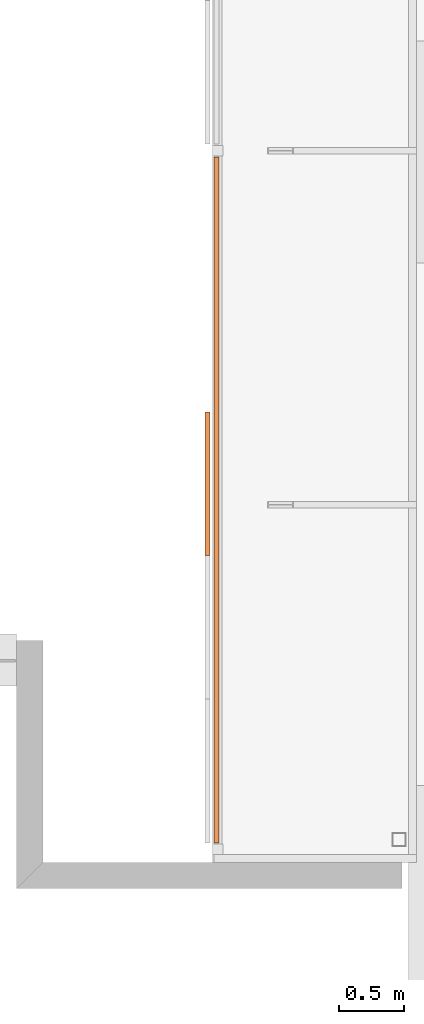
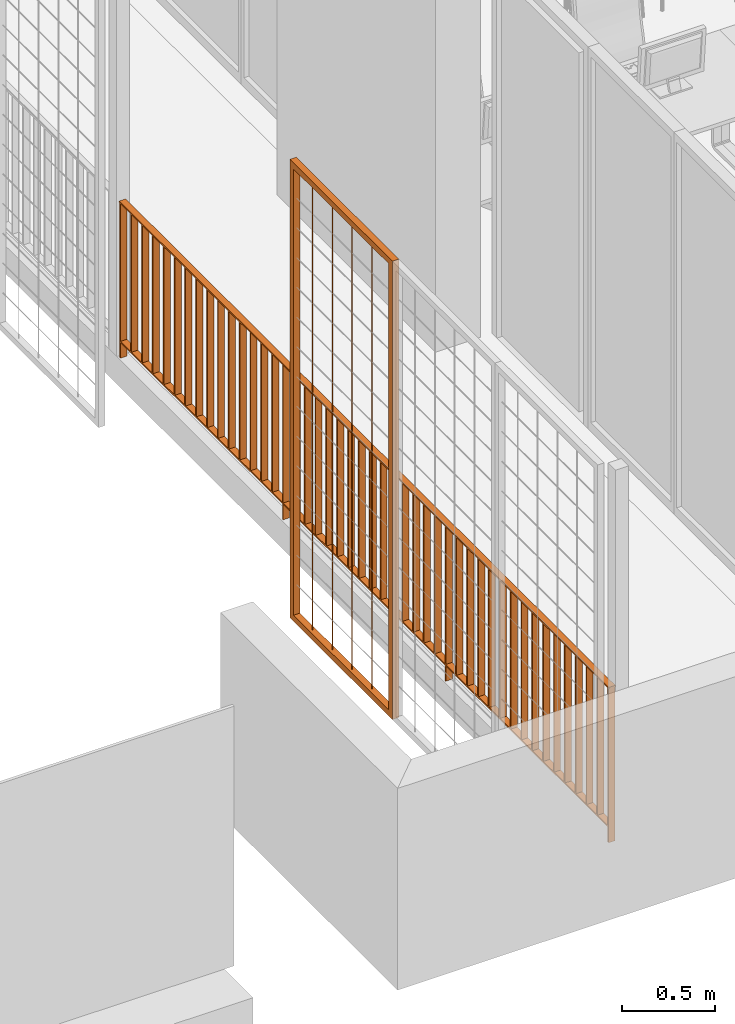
# One storey, part 39 of 51: 2 proxies.
"""IFC2X3 building model written with IfcOpenShell, lengths in metres."""

from ifc_helpers import new_model, entity, si_unit, converted_unit, derived_unit, direction, frame, frame_2d, origin, origin_2d_with_axis, place, context, subcontext, project, spatial, polyline, rectangle, outline, extrude, source, transform, mapped, material, type_object, type_shapes, element, save


model = new_model("IFC2X3")

# Units and contexts
model_context = context("Model", 3, precision=1e-05, world=origin(), true_north=direction((6.123031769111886e-17, 1.0)))
body_context = subcontext(model_context, "Body", "Model", "MODEL_VIEW")
ifc_project = project(units=[si_unit("LENGTHUNIT", "METRE"), si_unit("AREAUNIT", "SQUARE_METRE"), si_unit("VOLUMEUNIT", "CUBIC_METRE"), converted_unit("PLANEANGLEUNIT", "DEGREE", entity("IfcRatioMeasure", 0.017453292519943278), si_unit("PLANEANGLEUNIT", "RADIAN"), dimensions=[0, 0, 0, 0, 0, 0, 0]), si_unit("MASSUNIT", "GRAM", prefix="KILO"), derived_unit("MASSDENSITYUNIT", [(si_unit("MASSUNIT", "GRAM", prefix="KILO"), 1), (si_unit("LENGTHUNIT", "METRE"), -3)]), derived_unit("MOMENTOFINERTIAUNIT", [(si_unit("LENGTHUNIT", "METRE"), 4)]), si_unit("TIMEUNIT", "SECOND"), si_unit("FREQUENCYUNIT", "HERTZ"), si_unit("THERMODYNAMICTEMPERATUREUNIT", "DEGREE_CELSIUS"), derived_unit("THERMALTRANSMITTANCEUNIT", [(si_unit("MASSUNIT", "GRAM", prefix="KILO"), 1), (si_unit("THERMODYNAMICTEMPERATUREUNIT", "KELVIN"), -1), (si_unit("TIMEUNIT", "SECOND"), -3)]), derived_unit("THERMALCONDUCTANCEUNIT", [(si_unit("MASSUNIT", "GRAM", prefix="KILO"), 1), (si_unit("LENGTHUNIT", "METRE"), 1), (si_unit("THERMODYNAMICTEMPERATUREUNIT", "KELVIN"), -1), (si_unit("TIMEUNIT", "SECOND"), -3)]), derived_unit("VOLUMETRICFLOWRATEUNIT", [(si_unit("LENGTHUNIT", "METRE"), 3), (si_unit("TIMEUNIT", "SECOND"), -1)]), derived_unit("MASSFLOWRATEUNIT", [(si_unit("MASSUNIT", "GRAM", prefix="KILO"), 1), (si_unit("TIMEUNIT", "SECOND"), -1)]), derived_unit("ROTATIONALFREQUENCYUNIT", [(si_unit("TIMEUNIT", "SECOND"), -1)]), si_unit("ELECTRICCURRENTUNIT", "AMPERE"), si_unit("ELECTRICVOLTAGEUNIT", "VOLT"), si_unit("POWERUNIT", "WATT"), si_unit("FORCEUNIT", "NEWTON", prefix="KILO"), si_unit("ILLUMINANCEUNIT", "LUX"), si_unit("LUMINOUSFLUXUNIT", "LUMEN"), si_unit("LUMINOUSINTENSITYUNIT", "CANDELA"), derived_unit("USERDEFINED", [(si_unit("MASSUNIT", "GRAM", prefix="KILO"), -1), (si_unit("LENGTHUNIT", "METRE"), -2), (si_unit("TIMEUNIT", "SECOND"), 3), (si_unit("LUMINOUSFLUXUNIT", "LUMEN"), 1)]), derived_unit("USERDEFINED", [(si_unit("MASSUNIT", "GRAM", prefix="KILO"), 1), (si_unit("LENGTHUNIT", "METRE"), 3), (si_unit("TIMEUNIT", "SECOND"), -3), (si_unit("ELECTRICCURRENTUNIT", "AMPERE"), -2)]), derived_unit("USERDEFINED", [(si_unit("LENGTHUNIT", "METRE"), 2), (si_unit("TIMEUNIT", "SECOND"), -2)]), derived_unit("SOUNDPOWERUNIT", [(si_unit("MASSUNIT", "GRAM", prefix="KILO"), 1), (si_unit("LENGTHUNIT", "METRE"), 2), (si_unit("TIMEUNIT", "SECOND"), -3)]), derived_unit("SOUNDPRESSUREUNIT", [(si_unit("MASSUNIT", "GRAM", prefix="KILO"), 1), (si_unit("LENGTHUNIT", "METRE"), -1), (si_unit("TIMEUNIT", "SECOND"), -2)]), derived_unit("LINEARVELOCITYUNIT", [(si_unit("LENGTHUNIT", "METRE"), 1), (si_unit("TIMEUNIT", "SECOND"), -1)]), si_unit("PRESSUREUNIT", "PASCAL"), derived_unit("USERDEFINED", [(si_unit("LENGTHUNIT", "METRE"), -2), (si_unit("MASSUNIT", "GRAM", prefix="KILO"), 1), (si_unit("TIMEUNIT", "SECOND"), -2)]), derived_unit("LINEARFORCEUNIT", [(si_unit("MASSUNIT", "GRAM", prefix="KILO"), 1), (si_unit("LENGTHUNIT", "METRE"), 1), (si_unit("TIMEUNIT", "SECOND"), -2), (si_unit("LENGTHUNIT", "METRE"), -1)]), derived_unit("PLANARFORCEUNIT", [(si_unit("MASSUNIT", "GRAM", prefix="KILO"), 1), (si_unit("LENGTHUNIT", "METRE"), 1), (si_unit("TIMEUNIT", "SECOND"), -2), (si_unit("LENGTHUNIT", "METRE"), -2)]), derived_unit("SPECIFICHEATCAPACITYUNIT", [(si_unit("LENGTHUNIT", "METRE"), 2), (si_unit("TIMEUNIT", "SECOND"), -2), (si_unit("THERMODYNAMICTEMPERATUREUNIT", "KELVIN"), -1)]), derived_unit("VAPORPERMEABILITYUNIT", [(si_unit("TIMEUNIT", "SECOND"), 1), (si_unit("LENGTHUNIT", "METRE"), -1)]), derived_unit("DYNAMICVISCOSITYUNIT", [(si_unit("MASSUNIT", "GRAM", prefix="KILO"), 1), (si_unit("LENGTHUNIT", "METRE"), -1), (si_unit("TIMEUNIT", "SECOND"), -1)]), derived_unit("THERMALEXPANSIONCOEFFICIENTUNIT", [(si_unit("THERMODYNAMICTEMPERATUREUNIT", "KELVIN"), -1)])], contexts=[model_context])

# Site, building, storey
site_placement = place(None, origin())
site = spatial("IfcSite", under=ifc_project, at=site_placement, Name="Default", CompositionType="ELEMENT")
building_placement = place(site_placement, origin())
building = spatial("IfcBuilding", under=site, at=building_placement, CompositionType="ELEMENT")
storey_placement = place(building_placement, frame((0.0, 0.0, 3.06)))
storey = spatial("IfcBuildingStorey", under=building, at=storey_placement, Name="ÉTAGE", CompositionType="ELEMENT", Elevation=3.06)

# Proxies
ifc_material_1 = material(Name="Peinture - Anthracite")
building_element_proxy_type_1 = type_object("IfcBuildingElementProxyType", Name="Symb-0003", PredefinedType="NOTDEFINED", material=ifc_material_1)
shared_shape_1 = source(origin(), body_context, "Body", "SweptSolid", [
    extrude(rectangle(XDim=0.04000000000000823, YDim=0.009999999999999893, at=frame_2d((8.663209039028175e-15, 0.0), x_axis=(1.0, 0.0))), frame((139.93075228, 9.56343175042, 4.38), z_axis=(0.0, 0.0, 1.0), x_axis=(-1.0, 0.0, 0.0)), (0.0, 0.0, 1.0), 0.9),
    extrude(rectangle(XDim=0.04000000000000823, YDim=0.009999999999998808, at=frame_2d((8.663209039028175e-15, -5.41667405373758e-16), x_axis=(1.0, 0.0))), frame((139.93075228, 9.679653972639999, 4.38), z_axis=(0.0, 0.0, 1.0), x_axis=(-1.0, 0.0, 0.0)), (0.0, 0.0, 1.0), 0.9),
    extrude(rectangle(XDim=0.04000000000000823, YDim=0.009999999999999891, at=frame_2d((8.663209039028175e-15, -1.0829011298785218e-15), x_axis=(1.0, 0.0))), frame((139.93075228, 9.795876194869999, 4.38), z_axis=(0.0, 0.0, 1.0), x_axis=(-1.0, 0.0, 0.0)), (0.0, 0.0, 1.0), 0.9),
    extrude(rectangle(XDim=0.04000000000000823, YDim=0.009999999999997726, at=frame_2d((8.663209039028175e-15, 0.0), x_axis=(1.0, 0.0))), frame((139.93075228, 9.91209841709, 4.38), z_axis=(0.0, 0.0, 1.0), x_axis=(-1.0, 0.0, 0.0)), (0.0, 0.0, 1.0), 0.9),
    extrude(rectangle(XDim=0.04000000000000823, YDim=0.009999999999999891, at=frame_2d((8.663209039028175e-15, -1.0829011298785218e-15), x_axis=(1.0, 0.0))), frame((139.93075228, 10.028320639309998, 4.38), z_axis=(0.0, 0.0, 1.0), x_axis=(-1.0, 0.0, 0.0)), (0.0, 0.0, 1.0), 0.9),
    extrude(rectangle(XDim=0.04000000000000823, YDim=0.010000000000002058, at=frame_2d((8.663209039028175e-15, 0.0), x_axis=(1.0, 0.0))), frame((139.93075228, 10.14454286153, 4.38), z_axis=(0.0, 0.0, 1.0), x_axis=(-1.0, 0.0, 0.0)), (0.0, 0.0, 1.0), 0.9),
    extrude(rectangle(XDim=0.04000000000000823, YDim=0.010000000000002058, at=frame_2d((8.663209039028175e-15, 0.0), x_axis=(1.0, 0.0))), frame((139.93075228, 10.26076508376, 4.38), z_axis=(0.0, 0.0, 1.0), x_axis=(-1.0, 0.0, 0.0)), (0.0, 0.0, 1.0), 0.9),
    extrude(rectangle(XDim=0.04000000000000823, YDim=0.009999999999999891, at=frame_2d((8.663209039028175e-15, -1.0829011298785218e-15), x_axis=(1.0, 0.0))), frame((139.93075228, 10.376987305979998, 4.38), z_axis=(0.0, 0.0, 1.0), x_axis=(-1.0, 0.0, 0.0)), (0.0, 0.0, 1.0), 0.9),
    extrude(rectangle(XDim=0.04000000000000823, YDim=0.009999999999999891, at=frame_2d((8.663209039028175e-15, 1.0829011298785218e-15), x_axis=(1.0, 0.0))), frame((139.93075228, 10.493209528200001, 4.38), z_axis=(0.0, 0.0, 1.0), x_axis=(-1.0, 0.0, 0.0)), (0.0, 0.0, 1.0), 0.9),
    extrude(rectangle(XDim=0.04000000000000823, YDim=0.009999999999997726, at=frame_2d((8.663209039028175e-15, 0.0), x_axis=(1.0, 0.0))), frame((139.93075228, 10.609431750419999, 4.38), z_axis=(0.0, 0.0, 1.0), x_axis=(-1.0, 0.0, 0.0)), (0.0, 0.0, 1.0), 0.9),
    extrude(rectangle(XDim=0.04000000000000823, YDim=0.009999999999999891, at=frame_2d((8.663209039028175e-15, -1.0829011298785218e-15), x_axis=(1.0, 0.0))), frame((139.93075228, 10.72565397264, 4.38), z_axis=(0.0, 0.0, 1.0), x_axis=(-1.0, 0.0, 0.0)), (0.0, 0.0, 1.0), 0.9),
    extrude(rectangle(XDim=0.04000000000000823, YDim=0.009999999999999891, at=frame_2d((8.663209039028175e-15, 1.0829011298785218e-15), x_axis=(1.0, 0.0))), frame((139.93075228, 10.841876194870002, 4.38), z_axis=(0.0, 0.0, 1.0), x_axis=(-1.0, 0.0, 0.0)), (0.0, 0.0, 1.0), 0.9),
    extrude(rectangle(XDim=0.04000000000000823, YDim=0.009999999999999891, at=frame_2d((8.663209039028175e-15, 1.0829011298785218e-15), x_axis=(1.0, 0.0))), frame((139.93075228, 10.95809841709, 4.38), z_axis=(0.0, 0.0, 1.0), x_axis=(-1.0, 0.0, 0.0)), (0.0, 0.0, 1.0), 0.9),
    extrude(rectangle(XDim=0.04000000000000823, YDim=0.010000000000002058, at=frame_2d((8.663209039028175e-15, 0.0), x_axis=(1.0, 0.0))), frame((139.93075228, 11.07432063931, 4.38), z_axis=(0.0, 0.0, 1.0), x_axis=(-1.0, 0.0, 0.0)), (0.0, 0.0, 1.0), 0.9),
    extrude(rectangle(XDim=0.04000000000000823, YDim=0.009999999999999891, at=frame_2d((8.663209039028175e-15, 1.0829011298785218e-15), x_axis=(1.0, 0.0))), frame((139.93075228, 11.30676508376, 4.38), z_axis=(0.0, 0.0, 1.0), x_axis=(-1.0, 0.0, 0.0)), (0.0, 0.0, 1.0), 0.9),
    extrude(rectangle(XDim=0.04000000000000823, YDim=0.009999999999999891, at=frame_2d((8.663209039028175e-15, -1.0829011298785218e-15), x_axis=(1.0, 0.0))), frame((139.93075228, 11.42298730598, 4.38), z_axis=(0.0, 0.0, 1.0), x_axis=(-1.0, 0.0, 0.0)), (0.0, 0.0, 1.0), 0.9),
    extrude(rectangle(XDim=0.04000000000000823, YDim=0.009999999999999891, at=frame_2d((8.663209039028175e-15, -1.0829011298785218e-15), x_axis=(1.0, 0.0))), frame((139.93075228, 11.539209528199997, 4.38), z_axis=(0.0, 0.0, 1.0), x_axis=(-1.0, 0.0, 0.0)), (0.0, 0.0, 1.0), 0.9),
    extrude(rectangle(XDim=0.04000000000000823, YDim=0.009999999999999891, at=frame_2d((8.663209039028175e-15, -1.0829011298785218e-15), x_axis=(1.0, 0.0))), frame((139.93075228, 11.65543175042, 4.38), z_axis=(0.0, 0.0, 1.0), x_axis=(-1.0, 0.0, 0.0)), (0.0, 0.0, 1.0), 0.9),
    extrude(rectangle(XDim=0.04000000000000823, YDim=0.009999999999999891, at=frame_2d((8.663209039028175e-15, -1.0829011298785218e-15), x_axis=(1.0, 0.0))), frame((139.93075228, 11.771653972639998, 4.38), z_axis=(0.0, 0.0, 1.0), x_axis=(-1.0, 0.0, 0.0)), (0.0, 0.0, 1.0), 0.9),
    extrude(rectangle(XDim=0.04000000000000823, YDim=0.009999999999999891, at=frame_2d((8.663209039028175e-15, -1.0829011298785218e-15), x_axis=(1.0, 0.0))), frame((139.93075228, 11.887876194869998, 4.38), z_axis=(0.0, 0.0, 1.0), x_axis=(-1.0, 0.0, 0.0)), (0.0, 0.0, 1.0), 0.9),
    extrude(rectangle(XDim=0.04000000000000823, YDim=0.009999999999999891, at=frame_2d((8.663209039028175e-15, -1.0829011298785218e-15), x_axis=(1.0, 0.0))), frame((139.93075228, 12.004098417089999, 4.38), z_axis=(0.0, 0.0, 1.0), x_axis=(-1.0, 0.0, 0.0)), (0.0, 0.0, 1.0), 0.9),
    extrude(rectangle(XDim=0.04000000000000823, YDim=0.009999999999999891, at=frame_2d((8.663209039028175e-15, -1.0829011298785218e-15), x_axis=(1.0, 0.0))), frame((139.93075228, 12.120320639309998, 4.38), z_axis=(0.0, 0.0, 1.0), x_axis=(-1.0, 0.0, 0.0)), (0.0, 0.0, 1.0), 0.9),
    extrude(rectangle(XDim=0.04000000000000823, YDim=0.009999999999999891, at=frame_2d((8.663209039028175e-15, 1.0829011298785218e-15), x_axis=(1.0, 0.0))), frame((139.93075228, 12.236542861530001, 4.38), z_axis=(0.0, 0.0, 1.0), x_axis=(-1.0, 0.0, 0.0)), (0.0, 0.0, 1.0), 0.9),
    extrude(rectangle(XDim=0.04000000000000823, YDim=0.009999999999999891, at=frame_2d((8.663209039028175e-15, -1.0829011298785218e-15), x_axis=(1.0, 0.0))), frame((139.93075228, 12.35276508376, 4.38), z_axis=(0.0, 0.0, 1.0), x_axis=(-1.0, 0.0, 0.0)), (0.0, 0.0, 1.0), 0.9),
    extrude(rectangle(XDim=0.04000000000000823, YDim=0.009999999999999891, at=frame_2d((8.663209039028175e-15, -1.0829011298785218e-15), x_axis=(1.0, 0.0))), frame((139.93075228, 12.468987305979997, 4.38), z_axis=(0.0, 0.0, 1.0), x_axis=(-1.0, 0.0, 0.0)), (0.0, 0.0, 1.0), 0.9),
    extrude(rectangle(XDim=0.04000000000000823, YDim=0.009999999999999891, at=frame_2d((8.663209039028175e-15, 1.0829011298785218e-15), x_axis=(1.0, 0.0))), frame((139.93075228, 12.585209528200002, 4.38), z_axis=(0.0, 0.0, 1.0), x_axis=(-1.0, 0.0, 0.0)), (0.0, 0.0, 1.0), 0.9),
    extrude(rectangle(XDim=0.04000000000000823, YDim=0.009999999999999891, at=frame_2d((8.663209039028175e-15, 1.0829011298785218e-15), x_axis=(1.0, 0.0))), frame((139.93075228, 12.701431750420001, 4.38), z_axis=(0.0, 0.0, 1.0), x_axis=(-1.0, 0.0, 0.0)), (0.0, 0.0, 1.0), 0.9),
    extrude(rectangle(XDim=0.04000000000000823, YDim=0.009999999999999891, at=frame_2d((8.663209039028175e-15, -1.0829011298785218e-15), x_axis=(1.0, 0.0))), frame((139.93075228, 12.817653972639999, 4.38), z_axis=(0.0, 0.0, 1.0), x_axis=(-1.0, 0.0, 0.0)), (0.0, 0.0, 1.0), 0.9),
    extrude(rectangle(XDim=0.04000000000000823, YDim=0.009999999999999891, at=frame_2d((8.663209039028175e-15, 1.0829011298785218e-15), x_axis=(1.0, 0.0))), frame((139.93075228, 13.050098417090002, 4.38), z_axis=(0.0, 0.0, 1.0), x_axis=(-1.0, 0.0, 0.0)), (0.0, 0.0, 1.0), 0.9),
    extrude(rectangle(XDim=0.04000000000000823, YDim=0.009999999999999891, at=frame_2d((8.663209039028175e-15, -1.0829011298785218e-15), x_axis=(1.0, 0.0))), frame((139.93075228, 13.16632063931, 4.38), z_axis=(0.0, 0.0, 1.0), x_axis=(-1.0, 0.0, 0.0)), (0.0, 0.0, 1.0), 0.9),
    extrude(rectangle(XDim=0.04000000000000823, YDim=0.009999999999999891, at=frame_2d((8.663209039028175e-15, 1.0829011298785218e-15), x_axis=(1.0, 0.0))), frame((139.93075228, 13.28254286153, 4.38), z_axis=(0.0, 0.0, 1.0), x_axis=(-1.0, 0.0, 0.0)), (0.0, 0.0, 1.0), 0.9),
    extrude(rectangle(XDim=0.04000000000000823, YDim=0.009999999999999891, at=frame_2d((8.663209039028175e-15, -1.0829011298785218e-15), x_axis=(1.0, 0.0))), frame((139.93075228, 13.398765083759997, 4.38), z_axis=(0.0, 0.0, 1.0), x_axis=(-1.0, 0.0, 0.0)), (0.0, 0.0, 1.0), 0.9),
    extrude(rectangle(XDim=0.04000000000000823, YDim=0.009999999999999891, at=frame_2d((8.663209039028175e-15, -1.0829011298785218e-15), x_axis=(1.0, 0.0))), frame((139.93075228, 13.51498730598, 4.38), z_axis=(0.0, 0.0, 1.0), x_axis=(-1.0, 0.0, 0.0)), (0.0, 0.0, 1.0), 0.9),
    extrude(rectangle(XDim=0.04000000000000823, YDim=0.009999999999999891, at=frame_2d((8.663209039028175e-15, 1.0829011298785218e-15), x_axis=(1.0, 0.0))), frame((139.93075228, 13.631209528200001, 4.38), z_axis=(0.0, 0.0, 1.0), x_axis=(-1.0, 0.0, 0.0)), (0.0, 0.0, 1.0), 0.9),
    extrude(rectangle(XDim=0.04000000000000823, YDim=0.009999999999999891, at=frame_2d((8.663209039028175e-15, 1.0829011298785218e-15), x_axis=(1.0, 0.0))), frame((139.93075228, 13.747431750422, 4.38), z_axis=(0.0, 0.0, 1.0), x_axis=(-1.0, 0.0, 0.0)), (0.0, 0.0, 1.0), 0.9),
    extrude(rectangle(XDim=0.04000000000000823, YDim=0.010000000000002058, at=frame_2d((8.663209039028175e-15, 0.0), x_axis=(1.0, 0.0))), frame((139.93075228, 13.863653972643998, 4.38), z_axis=(0.0, 0.0, 1.0), x_axis=(-1.0, 0.0, 0.0)), (0.0, 0.0, 1.0), 0.9),
    extrude(rectangle(XDim=0.04000000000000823, YDim=0.009999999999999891, at=frame_2d((8.663209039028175e-15, 1.0829011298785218e-15), x_axis=(1.0, 0.0))), frame((139.93075228, 13.979876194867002, 4.38), z_axis=(0.0, 0.0, 1.0), x_axis=(-1.0, 0.0, 0.0)), (0.0, 0.0, 1.0), 0.9),
    extrude(rectangle(XDim=0.04000000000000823, YDim=0.009999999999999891, at=frame_2d((8.663209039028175e-15, 1.0829011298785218e-15), x_axis=(1.0, 0.0))), frame((139.93075228, 14.096098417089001, 4.38), z_axis=(0.0, 0.0, 1.0), x_axis=(-1.0, 0.0, 0.0)), (0.0, 0.0, 1.0), 0.9),
    extrude(rectangle(XDim=0.04000000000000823, YDim=0.009999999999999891, at=frame_2d((8.663209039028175e-15, 1.0829011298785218e-15), x_axis=(1.0, 0.0))), frame((139.93075228, 14.212320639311, 4.38), z_axis=(0.0, 0.0, 1.0), x_axis=(-1.0, 0.0, 0.0)), (0.0, 0.0, 1.0), 0.9),
    extrude(rectangle(XDim=0.04000000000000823, YDim=0.009999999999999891, at=frame_2d((8.663209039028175e-15, 1.0829011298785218e-15), x_axis=(1.0, 0.0))), frame((139.93075228, 14.328542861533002, 4.38), z_axis=(0.0, 0.0, 1.0), x_axis=(-1.0, 0.0, 0.0)), (0.0, 0.0, 1.0), 0.9),
    extrude(rectangle(XDim=0.04000000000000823, YDim=0.009999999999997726, at=frame_2d((8.663209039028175e-15, 0.0), x_axis=(1.0, 0.0))), frame((139.93075228, 14.444765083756, 4.38), z_axis=(0.0, 0.0, 1.0), x_axis=(-1.0, 0.0, 0.0)), (0.0, 0.0, 1.0), 0.9),
    extrude(rectangle(XDim=0.04000000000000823, YDim=0.009999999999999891, at=frame_2d((8.663209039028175e-15, -1.0829011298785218e-15), x_axis=(1.0, 0.0))), frame((139.93075228, 14.560987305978, 4.38), z_axis=(0.0, 0.0, 1.0), x_axis=(-1.0, 0.0, 0.0)), (0.0, 0.0, 1.0), 0.9),
    extrude(rectangle(XDim=0.04000000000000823, YDim=1.7333333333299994, at=frame_2d((8.663209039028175e-15, 5.551115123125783e-16), x_axis=(1.0, 0.0))), frame((139.93075228, 10.318876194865, 4.37), z_axis=(0.0, 0.0, 1.0), x_axis=(-1.0, 0.0, 0.0)), (0.0, 0.0, 1.0), 0.009999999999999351),
    extrude(rectangle(XDim=0.04000000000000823, YDim=1.7333333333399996, at=frame_2d((-8.663209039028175e-15, 0.0), x_axis=(1.0, 0.0))), frame((139.93075228, 12.0622095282, 4.37)), (0.0, 0.0, 1.0), 0.009999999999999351),
    extrude(rectangle(XDim=0.04000000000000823, YDim=1.7333333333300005, at=frame_2d((-8.663209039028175e-15, 1.0547118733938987e-15), x_axis=(1.0, 0.0))), frame((139.93075228, 13.805542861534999, 4.37)), (0.0, 0.0, 1.0), 0.009999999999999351),
    extrude(rectangle(XDim=0.04000000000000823, YDim=0.010000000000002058, at=frame_2d((8.663209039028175e-15, 0.0), x_axis=(1.0, 0.0))), frame((139.93075228, 9.4472095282, 4.27), z_axis=(0.0, 0.0, 1.0), x_axis=(-1.0, 0.0, 0.0)), (0.0, 0.0, 1.0), 1.01),
    extrude(rectangle(XDim=0.04000000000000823, YDim=0.009999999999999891, at=frame_2d((8.663209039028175e-15, -1.0829011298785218e-15), x_axis=(1.0, 0.0))), frame((139.93075228, 11.190542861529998, 4.27), z_axis=(0.0, 0.0, 1.0), x_axis=(-1.0, 0.0, 0.0)), (0.0, 0.0, 1.0), 1.01),
    extrude(rectangle(XDim=0.04000000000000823, YDim=0.009999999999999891, at=frame_2d((8.663209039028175e-15, -1.0829011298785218e-15), x_axis=(1.0, 0.0))), frame((139.93075228, 12.933876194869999, 4.27), z_axis=(0.0, 0.0, 1.0), x_axis=(-1.0, 0.0, 0.0)), (0.0, 0.0, 1.0), 1.01),
    extrude(rectangle(XDim=0.04000000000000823, YDim=0.009999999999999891, at=frame_2d((8.663209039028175e-15, -1.0829011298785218e-15), x_axis=(1.0, 0.0))), frame((139.93075228, 14.677209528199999, 4.27), z_axis=(0.0, 0.0, 1.0), x_axis=(-1.0, 0.0, 0.0)), (0.0, 0.0, 1.0), 1.01),
    extrude(rectangle(XDim=5.249999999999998, YDim=0.04000000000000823, at=frame_2d((-6.661338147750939e-16, 8.663209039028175e-15), x_axis=(1.0, 0.0))), frame((139.93075228, 12.0622095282, 5.279999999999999), z_axis=(0.0, 0.0, 1.0), x_axis=(0.0, 1.0, 0.0)), (0.0, 0.0, 1.0), 0.009999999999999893),
])
type_shapes(building_element_proxy_type_1, [shared_shape_1])
proxy_1_placement = place(storey_placement, frame((0.0, 0.0, -3.06)))
element("IfcBuildingElementProxy", 1, at=proxy_1_placement, inside=storey, type_object=building_element_proxy_type_1, material=ifc_material_1, Name="Symb-0003 299875:Symb-0003 299875", ObjectType="Symb-0003 299875:Symb-0003 299875", context=body_context, shape_type="MappedRepresentation", body=[
    mapped(shared_shape_1, transform((0.0, 0.0, 0.0), scale=1.0)),
])
ifc_material_2 = material(Name="Peinture - Gris foncé")
building_element_proxy_type_2 = type_object("IfcBuildingElementProxyType", Name="Symb-0003", PredefinedType="NOTDEFINED", material=ifc_material_2)
shared_shape_2 = source(origin(), body_context, "Body", "SweptSolid", [
    extrude(outline(polyline([(-0.0011180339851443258, -0.002236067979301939), (0.0007453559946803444, -0.002236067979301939), (0.001863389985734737, -0.0018633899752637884), (0.0026087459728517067, -0.00037267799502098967), (0.0022360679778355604, 0.0007453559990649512), (0.0011180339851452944, 0.002236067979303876), (-0.0007453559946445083, 0.0022360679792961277), (-0.001863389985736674, 0.001863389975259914), (-0.0026087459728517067, 0.00037267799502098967), (-0.0022360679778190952, -0.0007453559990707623), (-0.0011180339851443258, -0.002236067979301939)])), frame((139.86075228, 11.6797095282, 3.81), z_axis=(0.0, 0.0, 1.0), x_axis=(-0.8944271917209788, -0.44721359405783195, 0.0)), (0.0, 0.0, 1.0), 2.9200000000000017),
    extrude(outline(polyline([(-0.0011180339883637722, -0.0022360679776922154), (0.0007453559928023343, -0.0022360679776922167), (0.0018633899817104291, -0.001863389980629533), (0.0026087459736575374, -0.00037267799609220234), (0.0022360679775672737, 0.0007453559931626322), (0.0011180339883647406, 0.0022360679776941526), (-0.0007453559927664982, 0.002236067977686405), (-0.0018633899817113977, 0.001863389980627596), (-0.0026087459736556, 0.00037267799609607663), (-0.002236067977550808, -0.0007453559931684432), (-0.0011180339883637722, -0.0022360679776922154)])), frame((139.86075228, 11.8917095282, 3.81), z_axis=(0.0, 0.0, 1.0), x_axis=(-0.8944271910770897, -0.4472135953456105, 0.0)), (0.0, 0.0, 1.0), 2.92),
    extrude(outline(polyline([(-0.0011180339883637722, -0.0022360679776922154), (0.0007453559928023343, -0.0022360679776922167), (0.0018633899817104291, -0.001863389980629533), (0.002608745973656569, -0.00037267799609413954), (0.0022360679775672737, 0.0007453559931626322), (0.0011180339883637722, 0.0022360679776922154), (-0.0007453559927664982, 0.002236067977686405), (-0.0018633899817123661, 0.0018633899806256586), (-0.002608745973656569, 0.00037267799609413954), (-0.002236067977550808, -0.0007453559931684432), (-0.0011180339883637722, -0.0022360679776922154)])), frame((139.86075228, 12.1037095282, 3.81), z_axis=(0.0, 0.0, 1.0), x_axis=(-0.8944271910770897, -0.4472135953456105, 0.0)), (0.0, 0.0, 1.0), 2.92),
    extrude(outline(polyline([(-0.0011180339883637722, -0.0022360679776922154), (0.0007453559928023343, -0.0022360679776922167), (0.0018633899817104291, -0.001863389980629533), (0.002608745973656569, -0.00037267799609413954), (0.0022360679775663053, 0.0007453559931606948), (0.0011180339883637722, 0.0022360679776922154), (-0.0007453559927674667, 0.0022360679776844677), (-0.0018633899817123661, 0.0018633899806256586), (-0.002608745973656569, 0.00037267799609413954), (-0.002236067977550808, -0.0007453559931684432), (-0.0011180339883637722, -0.0022360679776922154)])), frame((139.86075228, 12.315709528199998, 3.81), z_axis=(0.0, 0.0, 1.0), x_axis=(-0.8944271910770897, -0.4472135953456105, 0.0)), (0.0, 0.0, 1.0), 2.92),
    extrude(outline(polyline([(-0.0011180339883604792, -0.00223606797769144), (0.0007453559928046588, -0.0022360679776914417), (0.0018633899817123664, -0.0018633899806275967), (0.002608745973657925, -0.0003726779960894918), (0.0022360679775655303, 0.0007453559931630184), (0.0011180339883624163, 0.002236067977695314), (-0.0007453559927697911, 0.0022360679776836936), (-0.0018633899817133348, 0.0018633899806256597), (-0.0026087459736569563, 0.0003726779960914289), (-0.0022360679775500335, -0.0007453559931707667), (-0.0011180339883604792, -0.00223606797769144)])), frame((139.86075228, 12.5277095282, 3.81), z_axis=(0.0, 0.0, 1.0), x_axis=(-0.8944271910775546, -0.44721359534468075, 0.0)), (0.0, 0.0, 1.0), 2.92),
    extrude(rectangle(XDim=1.099999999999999, YDim=0.039999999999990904, at=frame_2d((1.1102230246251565e-15, 0.0), x_axis=(1.0, 0.0))), frame((139.86075227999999, 12.187209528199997, 6.73), z_axis=(0.0, 0.0, 1.0), x_axis=(0.0, 1.0, 0.0)), (0.0, 0.0, 1.0), 0.03999999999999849),
    extrude(rectangle(XDim=1.099999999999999, YDim=0.039999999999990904, at=frame_2d((1.1102230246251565e-15, 0.0), x_axis=(1.0, 0.0))), frame((139.86075227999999, 12.187209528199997, 3.7699999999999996), z_axis=(0.0, 0.0, 1.0), x_axis=(0.0, 1.0, 0.0)), (0.0, 0.0, 1.0), 0.04000000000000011),
    extrude(rectangle(XDim=0.03999999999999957, YDim=0.039999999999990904, at=origin_2d_with_axis()), frame((139.86075227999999, 11.6572095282, 3.8099999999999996), z_axis=(0.0, 0.0, 1.0), x_axis=(0.0, 1.0, 0.0)), (0.0, 0.0, 1.0), 2.9200000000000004),
    extrude(rectangle(XDim=0.039999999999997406, YDim=0.039999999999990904, at=frame_2d((1.0824674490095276e-15, 0.0), x_axis=(1.0, 0.0))), frame((139.86075227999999, 12.717209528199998, 3.8099999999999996), z_axis=(0.0, 0.0, 1.0), x_axis=(0.0, 1.0, 0.0)), (0.0, 0.0, 1.0), 2.9200000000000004),
])
type_shapes(building_element_proxy_type_2, [shared_shape_2])
proxy_2_placement = place(storey_placement, frame((0.0, 0.0, -3.06)))
element("IfcBuildingElementProxy", 2, at=proxy_2_placement, inside=storey, type_object=building_element_proxy_type_2, material=ifc_material_2, Name="Symb-0003 464579:Symb-0003 464579", ObjectType="Symb-0003 464579:Symb-0003 464579", context=body_context, shape_type="MappedRepresentation", body=[
    mapped(shared_shape_2, transform((0.0, 0.0, 0.0), scale=1.0)),
])

save(model, "model.ifc")
